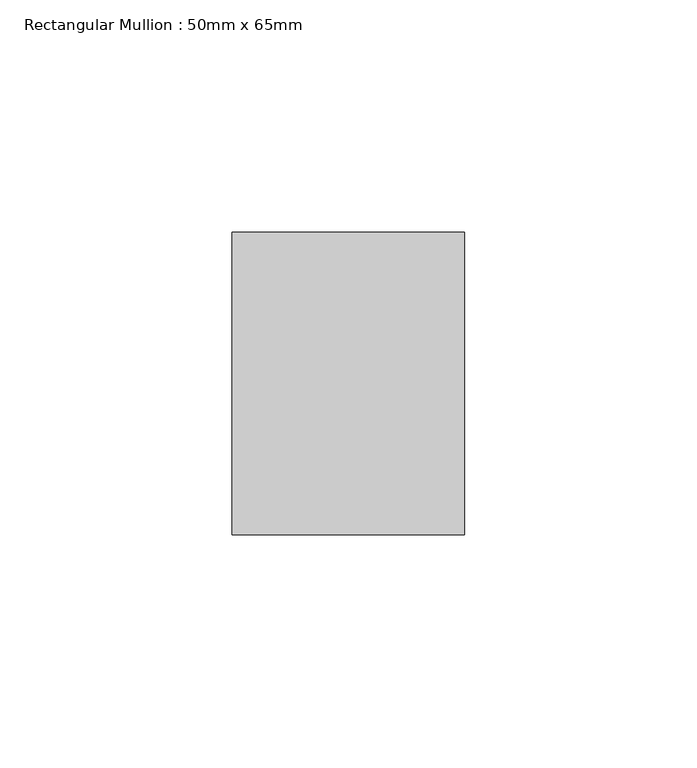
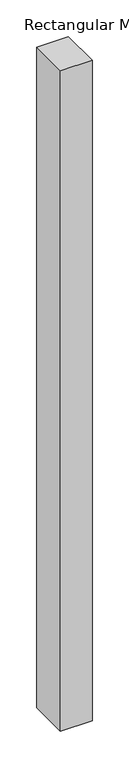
"""IFC4 building model written with IfcOpenShell, lengths in millimetres: member geometry, Rectangular Mullion : 50mm x 65mm."""

from ifc_helpers import new_model, si_unit, frame, origin, place, context, project, spatial, polyline, outline, extrude, source, transform, mapped, element, save


def rectangular_mullion_50mm_x_65mm_d660201f(model_context):
    return source(origin(), model_context, "Body", "SweptSolid", [
        extrude(outline(polyline([(0.0, 32.5), (0.0, -32.5), (-50.0, -32.5), (-50.0, 32.5), (0.0, 32.5)])), frame((0.0, 0.0, -1099.9999998), z_axis=(0.0, 0.0, 1.0), x_axis=(1.0, 0.0, 0.0)), (0.0, 0.0, 1.0), 1099.9999998),
    ])


if __name__ == "__main__":
    model = new_model("IFC4")
    model_context = context("Model", 3, world=origin())
    ifc_project = project(units=[si_unit("LENGTHUNIT", "METRE", prefix="MILLI")], contexts=[model_context])
    site = spatial("IfcSite", under=ifc_project)
    building = spatial("IfcBuilding", under=site)
    placement = place(None, origin())
    rectangular_mullion_50mm_x_65mm_shape = rectangular_mullion_50mm_x_65mm_d660201f(model_context)
    element("IfcMember", 1, ObjectType="Rectangular Mullion : 50mm x 65mm", at=placement, inside=building, context=model_context, shape_type="MappedRepresentation", body=[
        mapped(rectangular_mullion_50mm_x_65mm_shape, transform((0.0, 0.0, 0.0), x_axis=(1.0, 0.0, 0.0), y_axis=(0.0, 1.0, 0.0), z_axis=(0.0, 0.0, 1.0))),
    ])
    save(model, "model.ifc")
